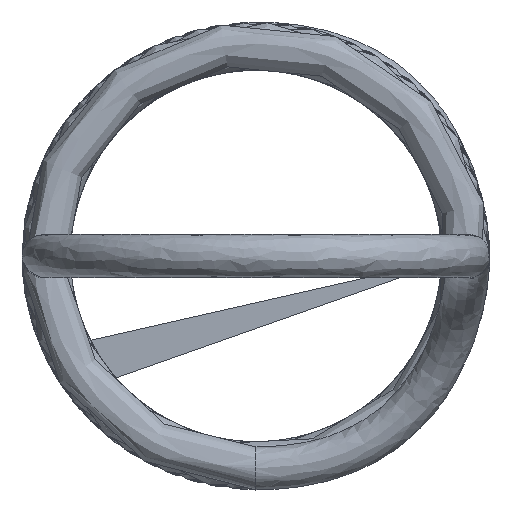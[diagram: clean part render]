
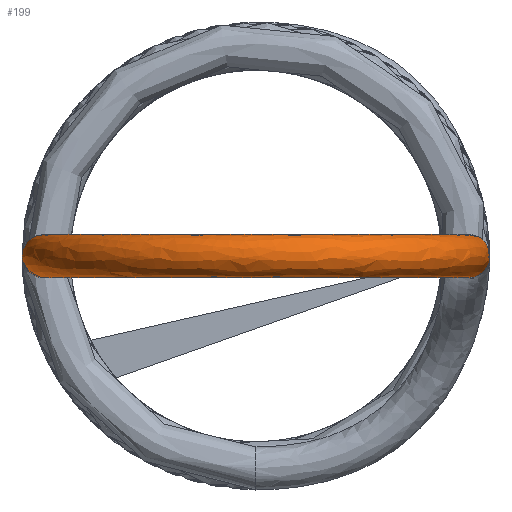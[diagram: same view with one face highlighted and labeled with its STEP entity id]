
A CAD part, front view. The second image highlights one B-rep face of the part: STEP entity #199.
In plain terms, the highlighted free-form (B-spline) face has degree [2, 2] with [9, 7] control points.
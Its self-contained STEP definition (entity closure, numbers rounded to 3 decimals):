
#15=(
BOUNDED_SURFACE()
B_SPLINE_SURFACE(2,2,((#591,#592,#593,#594,#595,#596,#597),(#598,#599,#600,
#601,#602,#603,#604),(#605,#606,#607,#608,#609,#610,#611),(#612,#613,#614,
#615,#616,#617,#618),(#619,#620,#621,#622,#623,#624,#625),(#626,#627,#628,
#629,#630,#631,#632),(#633,#634,#635,#636,#637,#638,#639),(#640,#641,#642,
#643,#644,#645,#646),(#647,#648,#649,#650,#651,#652,#653)),
 .UNSPECIFIED.,.T.,.F.,.F.)
B_SPLINE_SURFACE_WITH_KNOTS((3,2,2,2,3),(3,2,2,3),(0.,1.571,3.142,
4.712,6.283),(0.,1.081,2.162,
3.243),.UNSPECIFIED.)
GEOMETRIC_REPRESENTATION_ITEM()
RATIONAL_B_SPLINE_SURFACE(((1.,0.857,1.,0.857,1.,
0.857,1.),(0.707,0.606,0.707,
0.606,0.707,0.606,0.707),
(1.,0.857,1.,0.857,1.,0.857,1.),(0.707,
0.606,0.707,0.606,0.707,0.606,
0.707),(1.,0.857,1.,0.857,1.,0.857,
1.),(0.707,0.606,0.707,0.606,
0.707,0.606,0.707),(1.,0.857,
1.,0.857,1.,0.857,1.),(0.707,0.606,
0.707,0.606,0.707,0.606,0.707),
(1.,0.857,1.,0.857,1.,0.857,1.)))
REPRESENTATION_ITEM('')
SURFACE()
);
#22=CIRCLE('',#234,0.6);
#23=CIRCLE('',#235,5.633);
#24=CIRCLE('',#236,0.6);
#37=FACE_OUTER_BOUND('',#48,.T.);
#48=EDGE_LOOP('',(#142,#143,#144,#145));
#85=VERTEX_POINT('',#518);
#88=VERTEX_POINT('',#654);
#106=EDGE_CURVE('',#85,#85,#22,.T.);
#109=EDGE_CURVE('',#85,#88,#23,.T.);
#110=EDGE_CURVE('',#88,#88,#24,.T.);
#142=ORIENTED_EDGE('',*,*,#106,.T.);
#143=ORIENTED_EDGE('',*,*,#109,.T.);
#144=ORIENTED_EDGE('',*,*,#110,.F.);
#145=ORIENTED_EDGE('',*,*,#109,.F.);
#199=ADVANCED_FACE('',(#37),#15,.T.);
#234=AXIS2_PLACEMENT_3D('',#529,#256,#257);
#235=AXIS2_PLACEMENT_3D('',#655,#258,#259);
#236=AXIS2_PLACEMENT_3D('',#656,#260,#261);
#256=DIRECTION('center_axis',(0.,-1.,0.));
#257=DIRECTION('ref_axis',(-0.444,0.,-0.896));
#258=DIRECTION('center_axis',(0.,0.,
-1.));
#259=DIRECTION('ref_axis',(1.,0.,0.));
#260=DIRECTION('center_axis',(0.102,0.995,0.));
#261=DIRECTION('ref_axis',(0.442,-0.045,-0.896));
#518=CARTESIAN_POINT('',(5.633,-73.7,-0.537));
#529=CARTESIAN_POINT('Origin',(5.9,-73.7,0.));
#591=CARTESIAN_POINT('Ctrl Pts',(5.633,-73.7,-0.537));
#592=CARTESIAN_POINT('Ctrl Pts',(5.633,-77.081,-0.537));
#593=CARTESIAN_POINT('Ctrl Pts',(2.65,-78.671,-0.537));
#594=CARTESIAN_POINT('Ctrl Pts',(-0.334,-80.262,-0.537));
#595=CARTESIAN_POINT('Ctrl Pts',(-3.141,-78.377,-0.537));
#596=CARTESIAN_POINT('Ctrl Pts',(-5.948,-76.491,-0.537));
#597=CARTESIAN_POINT('Ctrl Pts',(-5.604,-73.128,-0.537));
#598=CARTESIAN_POINT('Ctrl Pts',(6.171,-73.7,-0.804));
#599=CARTESIAN_POINT('Ctrl Pts',(6.171,-77.404,-0.804));
#600=CARTESIAN_POINT('Ctrl Pts',(2.902,-79.146,-0.804));
#601=CARTESIAN_POINT('Ctrl Pts',(-0.366,-80.888,-0.804));
#602=CARTESIAN_POINT('Ctrl Pts',(-3.441,-78.823,-0.804));
#603=CARTESIAN_POINT('Ctrl Pts',(-6.515,-76.758,-0.804));
#604=CARTESIAN_POINT('Ctrl Pts',(-6.139,-73.073,-0.804));
#605=CARTESIAN_POINT('Ctrl Pts',(6.437,-73.7,-0.267));
#606=CARTESIAN_POINT('Ctrl Pts',(6.437,-77.564,-0.267));
#607=CARTESIAN_POINT('Ctrl Pts',(3.028,-79.381,-0.267));
#608=CARTESIAN_POINT('Ctrl Pts',(-0.382,-81.198,-0.267));
#609=CARTESIAN_POINT('Ctrl Pts',(-3.589,-79.044,-0.267));
#610=CARTESIAN_POINT('Ctrl Pts',(-6.797,-76.89,-0.267));
#611=CARTESIAN_POINT('Ctrl Pts',(-6.404,-73.046,-0.267));
#612=CARTESIAN_POINT('Ctrl Pts',(6.704,-73.7,0.271));
#613=CARTESIAN_POINT('Ctrl Pts',(6.704,-77.724,0.271));
#614=CARTESIAN_POINT('Ctrl Pts',(3.153,-79.616,0.271));
#615=CARTESIAN_POINT('Ctrl Pts',(-0.398,-81.509,0.271));
#616=CARTESIAN_POINT('Ctrl Pts',(-3.738,-79.265,0.271));
#617=CARTESIAN_POINT('Ctrl Pts',(-7.078,-77.022,0.271));
#618=CARTESIAN_POINT('Ctrl Pts',(-6.669,-73.019,0.271));
#619=CARTESIAN_POINT('Ctrl Pts',(6.167,-73.7,0.537));
#620=CARTESIAN_POINT('Ctrl Pts',(6.167,-77.401,0.537));
#621=CARTESIAN_POINT('Ctrl Pts',(2.9,-79.142,0.537));
#622=CARTESIAN_POINT('Ctrl Pts',(-0.366,-80.883,0.537));
#623=CARTESIAN_POINT('Ctrl Pts',(-3.438,-78.819,0.537));
#624=CARTESIAN_POINT('Ctrl Pts',(-6.511,-76.756,0.537));
#625=CARTESIAN_POINT('Ctrl Pts',(-6.135,-73.074,0.537));
#626=CARTESIAN_POINT('Ctrl Pts',(5.629,-73.7,0.804));
#627=CARTESIAN_POINT('Ctrl Pts',(5.629,-77.079,0.804));
#628=CARTESIAN_POINT('Ctrl Pts',(2.648,-78.668,0.804));
#629=CARTESIAN_POINT('Ctrl Pts',(-0.334,-80.257,0.804));
#630=CARTESIAN_POINT('Ctrl Pts',(-3.139,-78.373,0.804));
#631=CARTESIAN_POINT('Ctrl Pts',(-5.943,-76.489,0.804));
#632=CARTESIAN_POINT('Ctrl Pts',(-5.6,-73.128,0.804));
#633=CARTESIAN_POINT('Ctrl Pts',(5.363,-73.7,0.267));
#634=CARTESIAN_POINT('Ctrl Pts',(5.363,-76.918,0.267));
#635=CARTESIAN_POINT('Ctrl Pts',(2.522,-78.432,0.267));
#636=CARTESIAN_POINT('Ctrl Pts',(-0.318,-79.946,0.267));
#637=CARTESIAN_POINT('Ctrl Pts',(-2.99,-78.152,0.267));
#638=CARTESIAN_POINT('Ctrl Pts',(-5.662,-76.357,0.267));
#639=CARTESIAN_POINT('Ctrl Pts',(-5.335,-73.155,0.267));
#640=CARTESIAN_POINT('Ctrl Pts',(5.096,-73.7,-0.271));
#641=CARTESIAN_POINT('Ctrl Pts',(5.096,-76.758,-0.271));
#642=CARTESIAN_POINT('Ctrl Pts',(2.397,-78.197,-0.271));
#643=CARTESIAN_POINT('Ctrl Pts',(-0.302,-79.636,-0.271));
#644=CARTESIAN_POINT('Ctrl Pts',(-2.841,-77.93,-0.271));
#645=CARTESIAN_POINT('Ctrl Pts',(-5.38,-76.225,-0.271));
#646=CARTESIAN_POINT('Ctrl Pts',(-5.07,-73.182,-0.271));
#647=CARTESIAN_POINT('Ctrl Pts',(5.633,-73.7,-0.537));
#648=CARTESIAN_POINT('Ctrl Pts',(5.633,-77.081,-0.537));
#649=CARTESIAN_POINT('Ctrl Pts',(2.65,-78.671,-0.537));
#650=CARTESIAN_POINT('Ctrl Pts',(-0.334,-80.262,-0.537));
#651=CARTESIAN_POINT('Ctrl Pts',(-3.141,-78.377,-0.537));
#652=CARTESIAN_POINT('Ctrl Pts',(-5.948,-76.491,-0.537));
#653=CARTESIAN_POINT('Ctrl Pts',(-5.604,-73.128,-0.537));
#654=CARTESIAN_POINT('',(-5.604,-73.128,-0.537));
#655=CARTESIAN_POINT('Origin',(0.,-73.7,-0.537));
#656=CARTESIAN_POINT('Origin',(-5.869,-73.101,0.));
